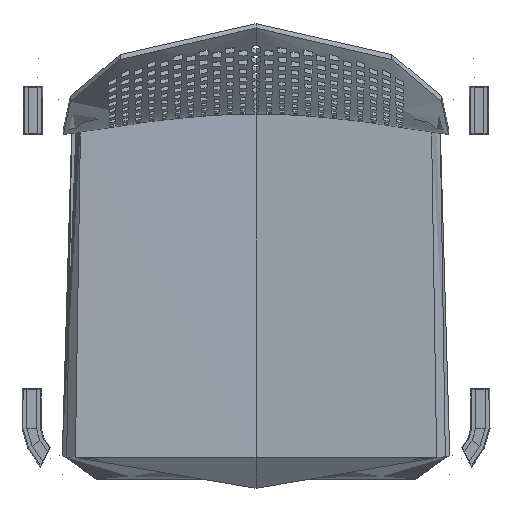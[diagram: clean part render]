
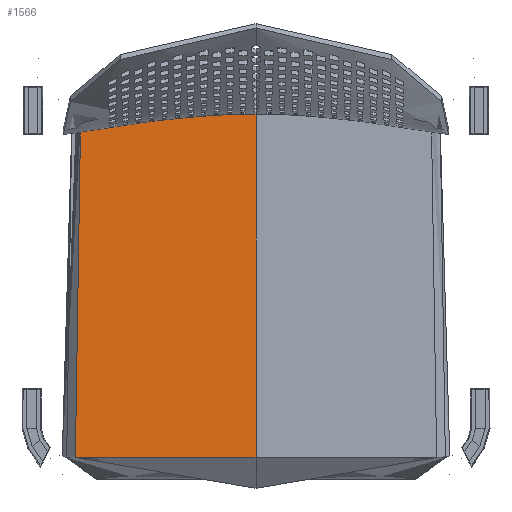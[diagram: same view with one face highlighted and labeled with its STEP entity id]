
A CAD part, top view. The second image highlights one B-rep face of the part: STEP entity #1566.
In plain terms, the highlighted free-form (B-spline) face has degree [3, 3] with [4, 6] control points.
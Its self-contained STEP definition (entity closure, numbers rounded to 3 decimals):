
#1566=ADVANCED_FACE('',(#2671),#20525,.T.);
#2671=FACE_OUTER_BOUND('',#4224,.T.);
#4224=EDGE_LOOP('',(#10405,#10406,#10407,#10408,#10409));
#10405=ORIENTED_EDGE('',*,*,#13860,.T.);
#10406=ORIENTED_EDGE('',*,*,#13848,.T.);
#10407=ORIENTED_EDGE('',*,*,#13849,.F.);
#10408=ORIENTED_EDGE('',*,*,#13859,.T.);
#10409=ORIENTED_EDGE('',*,*,#13867,.F.);
#13848=EDGE_CURVE('',#19316,#19318,#17236,.T.);
#13849=EDGE_CURVE('',#19317,#19318,#17237,.T.);
#13859=EDGE_CURVE('',#19317,#19324,#17247,.T.);
#13860=EDGE_CURVE('',#19326,#19316,#17248,.T.);
#13867=EDGE_CURVE('',#19326,#19324,#14076,.T.);
#14076=(
BOUNDED_CURVE()
B_SPLINE_CURVE(3,(#58459,#58460,#58461,#58462,#58463,#58464,#58465,#58466,
#58467,#58468,#58469,#58470,#58471,#58472,#58473,#58474,#58475,#58476,#58477,
#58478),.UNSPECIFIED.,.F.,.F.)
B_SPLINE_CURVE_WITH_KNOTS((4,3,3,1,1,1,1,1,1,1,3,4),(-0.392,
-0.39,6.301,10.816,15.904,21.689,
28.102,34.77,41.018,46.433,51.07,
56.446),.UNSPECIFIED.)
CURVE()
GEOMETRIC_REPRESENTATION_ITEM()
RATIONAL_B_SPLINE_CURVE((1.,1.,1.,1.,1.,1.,1.,1.,1.,1.,1.,
1.,1.,1.,1.,1.,1.,1.,1.,1.))
REPRESENTATION_ITEM('')
);
#17236=B_SPLINE_CURVE_WITH_KNOTS('',3,(#58223,#58224,#58225,#58226),
 .UNSPECIFIED.,.F.,.F.,(4,4),(0.,208.2),.UNSPECIFIED.);
#17237=B_SPLINE_CURVE_WITH_KNOTS('',3,(#58227,#58228,#58229,#58230,#58231,
#58232),.UNSPECIFIED.,.F.,.F.,(4,1,1,4),(-469.281,-336.575,
-192.091,-47.607),.UNSPECIFIED.);
#17247=B_SPLINE_CURVE_WITH_KNOTS('',3,(#58372,#58373,#58374,#58375),
 .UNSPECIFIED.,.F.,.F.,(4,4),(0.,169.177),.UNSPECIFIED.);
#17248=B_SPLINE_CURVE_WITH_KNOTS('',3,(#58376,#58377,#58378,#58379,#58380),
 .UNSPECIFIED.,.F.,.F.,(4,1,4),(235.672,614.063,616.504),
 .UNSPECIFIED.);
#19316=VERTEX_POINT('',#58193);
#19317=VERTEX_POINT('',#58194);
#19318=VERTEX_POINT('',#58195);
#19324=VERTEX_POINT('',#58201);
#19326=VERTEX_POINT('',#58203);
#20525=B_SPLINE_SURFACE_WITH_KNOTS('',3,3,((#56199,#56200,#56201,#56202,
#56203,#56204),(#56205,#56206,#56207,#56208,#56209,#56210),(#56211,#56212,
#56213,#56214,#56215,#56216),(#56217,#56218,#56219,#56220,#56221,#56222)),
 .UNSPECIFIED.,.F.,.F.,.F.,(4,4),(4,1,1,4),(0.,208.2),(47.607,
192.091,336.575,469.281),.UNSPECIFIED.);
#56199=CARTESIAN_POINT('',(-207.61,-200.8,475.081));
#56200=CARTESIAN_POINT('',(-206.89,-154.314,474.31));
#56201=CARTESIAN_POINT('',(-205.45,-61.344,472.768));
#56202=CARTESIAN_POINT('',(-203.349,74.323,470.518));
#56203=CARTESIAN_POINT('',(-201.968,163.504,469.038));
#56204=CARTESIAN_POINT('',(-201.307,206.2,468.33));
#56205=CARTESIAN_POINT('',(-138.406,-200.8,473.081));
#56206=CARTESIAN_POINT('',(-137.927,-164.428,472.478));
#56207=CARTESIAN_POINT('',(-136.967,-58.131,463.01));
#56208=CARTESIAN_POINT('',(-135.566,87.116,461.076));
#56209=CARTESIAN_POINT('',(-134.645,173.48,463.765));
#56210=CARTESIAN_POINT('',(-134.204,212.878,465.041));
#56211=CARTESIAN_POINT('',(-69.203,-200.8,472.081));
#56212=CARTESIAN_POINT('',(-68.963,-169.485,471.562));
#56213=CARTESIAN_POINT('',(-68.483,-56.525,458.131));
#56214=CARTESIAN_POINT('',(-67.783,93.513,456.355));
#56215=CARTESIAN_POINT('',(-67.323,178.468,461.129));
#56216=CARTESIAN_POINT('',(-67.102,216.217,463.396));
#56217=CARTESIAN_POINT('',(0.,-200.8,472.081));
#56218=CARTESIAN_POINT('',(0.,-169.485,471.562));
#56219=CARTESIAN_POINT('',(0.,-56.525,458.131));
#56220=CARTESIAN_POINT('',(0.,93.513,456.355));
#56221=CARTESIAN_POINT('',(0.,178.468,461.129));
#56222=CARTESIAN_POINT('',(0.,216.217,463.396));
#58193=CARTESIAN_POINT('',(-207.61,-200.8,475.081));
#58194=CARTESIAN_POINT('',(0.,216.217,463.396));
#58195=CARTESIAN_POINT('',(0.,-200.8,472.081));
#58201=CARTESIAN_POINT('',(-166.693,209.35,466.779));
#58203=CARTESIAN_POINT('',(-201.765,176.772,468.819));
#58223=CARTESIAN_POINT('',(-207.61,-200.8,475.081));
#58224=CARTESIAN_POINT('',(-138.406,-200.8,473.081));
#58225=CARTESIAN_POINT('',(-69.203,-200.8,472.081));
#58226=CARTESIAN_POINT('',(0.,-200.8,472.081));
#58227=CARTESIAN_POINT('',(0.,216.217,463.396));
#58228=CARTESIAN_POINT('',(0.,178.468,461.129));
#58229=CARTESIAN_POINT('',(0.,93.513,456.355));
#58230=CARTESIAN_POINT('',(0.,-56.525,458.131));
#58231=CARTESIAN_POINT('',(0.,-169.485,471.562));
#58232=CARTESIAN_POINT('',(0.,-200.8,472.081));
#58372=CARTESIAN_POINT('',(0.,216.217,463.396));
#58373=CARTESIAN_POINT('',(-55.652,216.219,463.396));
#58374=CARTESIAN_POINT('',(-111.239,213.917,464.528));
#58375=CARTESIAN_POINT('',(-166.693,209.35,466.779));
#58376=CARTESIAN_POINT('',(-201.765,176.772,468.819));
#58377=CARTESIAN_POINT('',(-203.697,51.693,470.897));
#58378=CARTESIAN_POINT('',(-205.651,-74.287,472.969));
#58379=CARTESIAN_POINT('',(-207.595,-199.785,475.083));
#58380=CARTESIAN_POINT('',(-207.61,-200.8,475.081));
#58459=CARTESIAN_POINT('',(-201.765,176.772,468.819));
#58460=CARTESIAN_POINT('',(-201.764,176.772,468.819));
#58461=CARTESIAN_POINT('',(-201.763,176.772,468.819));
#58462=CARTESIAN_POINT('',(-201.762,176.772,468.819));
#58463=CARTESIAN_POINT('',(-199.541,176.811,468.669));
#58464=CARTESIAN_POINT('',(-197.319,176.863,468.52));
#58465=CARTESIAN_POINT('',(-195.1,176.969,468.373));
#58466=CARTESIAN_POINT('',(-193.602,177.041,468.274));
#58467=CARTESIAN_POINT('',(-190.422,177.258,468.064));
#58468=CARTESIAN_POINT('',(-185.365,178.026,467.733));
#58469=CARTESIAN_POINT('',(-179.891,179.81,467.385));
#58470=CARTESIAN_POINT('',(-174.545,183.167,467.064));
#58471=CARTESIAN_POINT('',(-170.339,188.106,466.842));
#58472=CARTESIAN_POINT('',(-167.892,193.742,466.742));
#58473=CARTESIAN_POINT('',(-166.881,199.09,466.725));
#58474=CARTESIAN_POINT('',(-166.675,202.435,466.736));
#58475=CARTESIAN_POINT('',(-166.633,203.979,466.744));
#58476=CARTESIAN_POINT('',(-166.59,205.769,466.753));
#58477=CARTESIAN_POINT('',(-166.606,207.562,466.765));
#58478=CARTESIAN_POINT('',(-166.693,209.35,466.779));
